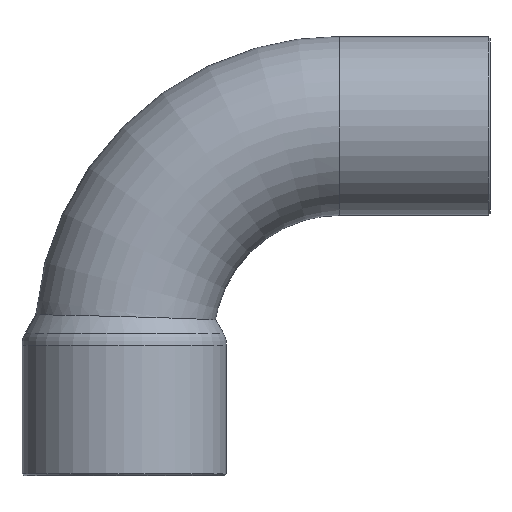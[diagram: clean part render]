
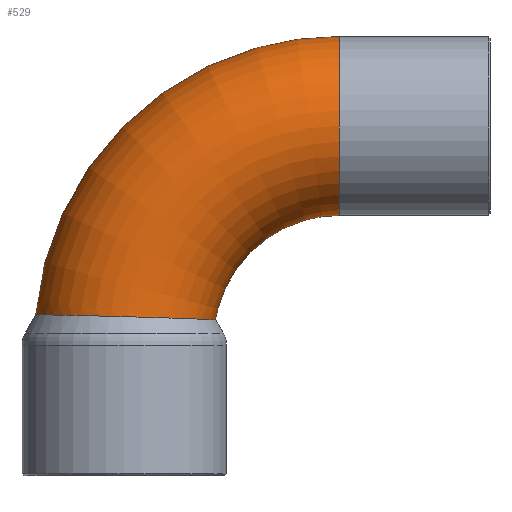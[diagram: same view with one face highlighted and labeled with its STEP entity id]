
A CAD part, left-side view. The second image highlights one B-rep face of the part: STEP entity #529.
In plain terms, the highlighted toroidal (fillet/blend) face has major radius 26.7 mm and minor radius 11.115 mm.
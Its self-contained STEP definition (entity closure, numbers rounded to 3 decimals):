
#249=CARTESIAN_POINT('',(0.,37.673,3.273));
#250=VERTEX_POINT('',#249);
#251=CARTESIAN_POINT('',(0.,37.673,3.273));
#252=CARTESIAN_POINT('',(-1.027,37.673,3.273));
#253=CARTESIAN_POINT('',(-2.049,37.53,3.271));
#254=CARTESIAN_POINT('',(-4.003,36.974,3.26));
#255=CARTESIAN_POINT('',(-4.927,36.57,3.253));
#256=CARTESIAN_POINT('',(-7.039,35.279,3.227));
#257=CARTESIAN_POINT('',(-8.13,34.27,3.207));
#258=CARTESIAN_POINT('',(-9.859,31.885,3.156));
#259=CARTESIAN_POINT('',(-10.478,30.531,3.126));
#260=CARTESIAN_POINT('',(-11.156,27.658,3.056));
#261=CARTESIAN_POINT('',(-11.206,26.166,3.017));
#262=CARTESIAN_POINT('',(-10.725,23.246,2.933));
#263=CARTESIAN_POINT('',(-10.196,21.845,2.888));
#264=CARTESIAN_POINT('',(-8.67,19.407,2.804));
#265=CARTESIAN_POINT('',(-7.717,18.373,2.765));
#266=CARTESIAN_POINT('',(-5.415,16.667,2.696));
#267=CARTESIAN_POINT('',(-4.072,16.033,2.668));
#268=CARTESIAN_POINT('',(-1.886,15.494,2.644));
#269=CARTESIAN_POINT('',(-1.111,15.389,2.639));
#270=CARTESIAN_POINT('',(0.382,15.344,2.637));
#271=CARTESIAN_POINT('',(1.096,15.391,2.639));
#272=CARTESIAN_POINT('',(2.989,15.704,2.654));
#273=CARTESIAN_POINT('',(4.136,16.093,2.671));
#274=CARTESIAN_POINT('',(6.498,17.351,2.724));
#275=CARTESIAN_POINT('',(7.647,18.294,2.762));
#276=CARTESIAN_POINT('',(9.476,20.526,2.844));
#277=CARTESIAN_POINT('',(10.157,21.781,2.886));
#278=CARTESIAN_POINT('',(11.005,24.443,2.968));
#279=CARTESIAN_POINT('',(11.178,25.824,3.007));
#280=CARTESIAN_POINT('',(11.012,28.575,3.079));
#281=CARTESIAN_POINT('',(10.676,29.923,3.111));
#282=CARTESIAN_POINT('',(9.524,32.442,3.169));
#283=CARTESIAN_POINT('',(8.713,33.588,3.193));
#284=CARTESIAN_POINT('',(6.695,35.537,3.233));
#285=CARTESIAN_POINT('',(5.501,36.316,3.248));
#286=CARTESIAN_POINT('',(2.861,37.394,3.268));
#287=CARTESIAN_POINT('',(1.438,37.673,3.273));
#288=CARTESIAN_POINT('',(0.0,37.673,3.273));
#289=B_SPLINE_CURVE_WITH_KNOTS('',3,(#251,#252,#253,#254,#255,#256,#257,#258,#259,#260,#261,#262,#263,#264,#265,#266,#267,#268,#269,#270,#271,#272,#273,#274,#275,#276,#277,#278,#279,#280,#281,#282,#283,#284,#285,#286,#287,#288),.UNSPECIFIED.,.T.,.U.,(4,2,2,2,2,2,2,2,2,2,2,2,2,2,2,2,2,2,4),(-7.017,-6.709,-6.407,-5.966,-5.524,-5.08,-4.635,-4.217,-3.776,-3.542,-3.327,-2.966,-2.525,-2.1,-1.686,-1.273,-0.855,-0.431,0.0),.UNSPECIFIED.);
#290=EDGE_CURVE('',#250,#250,#289,.T.);
#510=CARTESIAN_POINT('',(0.0,0.0,0.0));
#511=DIRECTION('',(1.0,0.0,0.0));
#512=DIRECTION('',(0.0,0.0,-1.0));
#513=AXIS2_PLACEMENT_3D('',#510,#511,#512);
#514=TOROIDAL_SURFACE('',#513,26.7,11.115);
#515=CARTESIAN_POINT('',(11.115,0.,26.7));
#516=VERTEX_POINT('',#515);
#517=CARTESIAN_POINT('',(0.0,0.,26.7));
#518=DIRECTION('',(0.0,1.0,0.0));
#519=DIRECTION('',(-1.0,0.0,0.0));
#520=AXIS2_PLACEMENT_3D('',#517,#518,#519);
#521=CIRCLE('',#520,11.115);
#522=EDGE_CURVE('',#516,#516,#521,.T.);
#523=ORIENTED_EDGE('',*,*,#522,.T.);
#524=EDGE_LOOP('',(#523));
#525=FACE_OUTER_BOUND('',#524,.T.);
#526=ORIENTED_EDGE('',*,*,#290,.T.);
#527=EDGE_LOOP('',(#526));
#528=FACE_BOUND('',#527,.T.);
#529=ADVANCED_FACE('',(#525,#528),#514,.T.);
